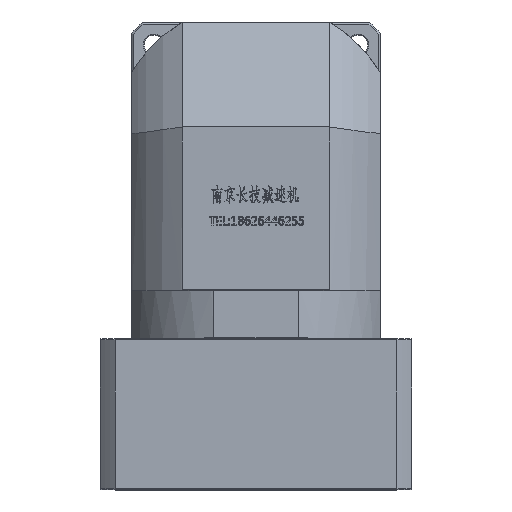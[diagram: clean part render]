
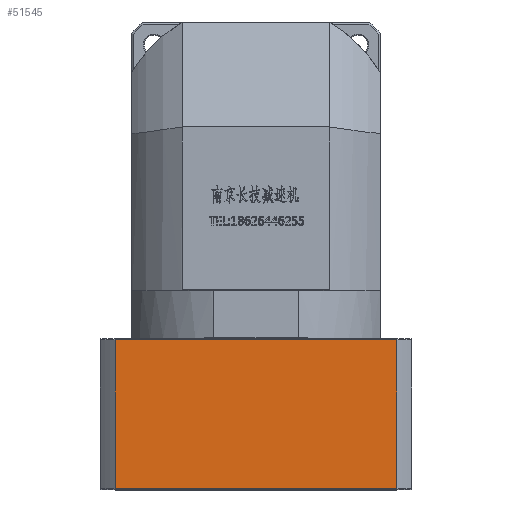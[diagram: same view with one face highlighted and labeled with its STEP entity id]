
A CAD part, top view. The second image highlights one B-rep face of the part: STEP entity #51545.
In plain terms, the highlighted planar face has unit normal (0, 0, 1).
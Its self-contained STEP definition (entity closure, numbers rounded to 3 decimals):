
#5333 = PLANE ( 'NONE',  #151411 ) ;
#10408 = ORIENTED_EDGE ( 'NONE', *, *, #147930, .F. ) ;
#13818 = CARTESIAN_POINT ( 'NONE',  ( -89.401, 84.384, -126.408 ) ) ;
#15528 = CARTESIAN_POINT ( 'NONE',  ( -89.401, -1.116, -126.408 ) ) ;
#18000 = VECTOR ( 'NONE', #45208, 1000. ) ;
#21997 = ORIENTED_EDGE ( 'NONE', *, *, #158194, .F. ) ;
#24818 = CARTESIAN_POINT ( 'NONE',  ( 80.091, -0.616, -126.408 ) ) ;
#40676 = VERTEX_POINT ( 'NONE', #24818 ) ;
#45208 = DIRECTION ( 'NONE',  ( 0., 1., 0. ) ) ;
#50997 = DIRECTION ( 'NONE',  ( 1., 0., 0. ) ) ;
#51545 = ADVANCED_FACE ( 'NONE', ( #139710 ), #5333, .F. ) ;
#54526 = LINE ( 'NONE', #13818, #120968 ) ;
#63688 = CARTESIAN_POINT ( 'NONE',  ( 80.091, 84.384, -126.408 ) ) ;
#66623 = LINE ( 'NONE', #98065, #88733 ) ;
#70863 = VERTEX_POINT ( 'NONE', #92011 ) ;
#72255 = CARTESIAN_POINT ( 'NONE',  ( -71.401, -0.616, -126.408 ) ) ;
#73893 = EDGE_CURVE ( 'NONE', #117524, #40676, #66623, .T. ) ;
#80700 = VERTEX_POINT ( 'NONE', #88072 ) ;
#88072 = CARTESIAN_POINT ( 'NONE',  ( -80.893, -0.616, -126.408 ) ) ;
#88733 = VECTOR ( 'NONE', #136328, 1000. ) ;
#91019 = ORIENTED_EDGE ( 'NONE', *, *, #132446, .F. ) ;
#92011 = CARTESIAN_POINT ( 'NONE',  ( -80.893, 84.384, -126.408 ) ) ;
#94824 = DIRECTION ( 'NONE',  ( 0., 1., 0. ) ) ;
#95876 = CARTESIAN_POINT ( 'NONE',  ( -80.893, 427.69, -126.408 ) ) ;
#98065 = CARTESIAN_POINT ( 'NONE',  ( 80.091, 427.69, -126.408 ) ) ;
#117524 = VERTEX_POINT ( 'NONE', #63688 ) ;
#120968 = VECTOR ( 'NONE', #50997, 1000. ) ;
#125268 = VECTOR ( 'NONE', #147833, 1000. ) ;
#128499 = ORIENTED_EDGE ( 'NONE', *, *, #73893, .F. ) ;
#132446 = EDGE_CURVE ( 'NONE', #70863, #117524, #54526, .T. ) ;
#136328 = DIRECTION ( 'NONE',  ( 0., -1., 0. ) ) ;
#137355 = LINE ( 'NONE', #72255, #125268 ) ;
#139710 = FACE_OUTER_BOUND ( 'NONE', #166447, .T. ) ;
#147833 = DIRECTION ( 'NONE',  ( -1., 0., 0. ) ) ;
#147930 = EDGE_CURVE ( 'NONE', #80700, #70863, #159104, .T. ) ;
#151411 = AXIS2_PLACEMENT_3D ( 'NONE', #15528, #157473, #94824 ) ;
#157473 = DIRECTION ( 'NONE',  ( 0., 0., -1. ) ) ;
#158194 = EDGE_CURVE ( 'NONE', #40676, #80700, #137355, .T. ) ;
#159104 = LINE ( 'NONE', #95876, #18000 ) ;
#166447 = EDGE_LOOP ( 'NONE', ( #128499, #91019, #10408, #21997 ) ) ;
